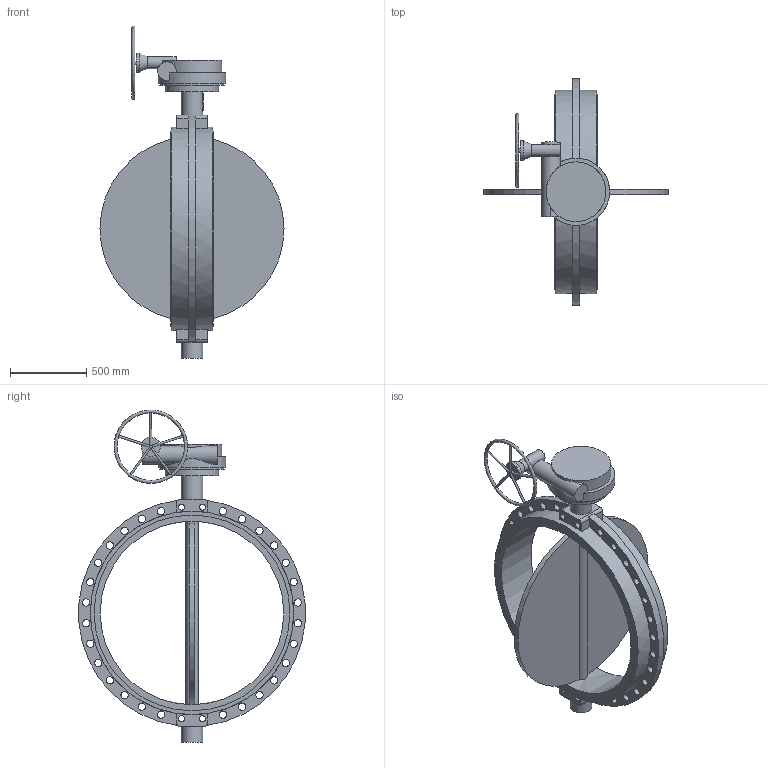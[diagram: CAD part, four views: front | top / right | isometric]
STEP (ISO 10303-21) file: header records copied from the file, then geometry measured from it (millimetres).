
FILE_DESCRIPTION(('STEP AP203'), '1');
FILE_NAME('青蜮铕 017WDN1200 疱潴牝铕', '', ('UNSPECIFIED'), ('UNSPECIFIED'), 'ASCON STEP Converter 1.6', 'ASCON Math Kernel', '');
FILE_SCHEMA(('CONFIG_CONTROL_DESIGN'));
Length unit declared in the file: millimetre
Bounding box: 1203 x 1479.65 x 2170.46 mm (x, y, z)
Volume: 167134356.7 mm3; surface area: 7065511.5 mm2
Topology: 1 solids, 1 shells, 770 faces, 2182 edges, 1453 vertices
Faces by surface type: cylinder 574, plane 194, cone 1, torus 1
Full cylindrical faces by diameter (mm): 14 x5, 17.5 x8, 20 x2, 22 x8, 40.129 x4, 48 x28, 80 x1, 120 x1, 125 x1, 140 x2, 350 x1, 390 x1, 420 x1, 440 x1, 1200 x1, 1280 x2, 1330 x2
Entity records: 34281 total; most frequent: CARTESIAN_POINT 7190, DIRECTION 4755, ORIENTED_EDGE 4210, EDGE_CURVE 2105, AXIS2_PLACEMENT_3D 1922, VERTEX_POINT 1450, CIRCLE 1152, EDGE_LOOP 957
